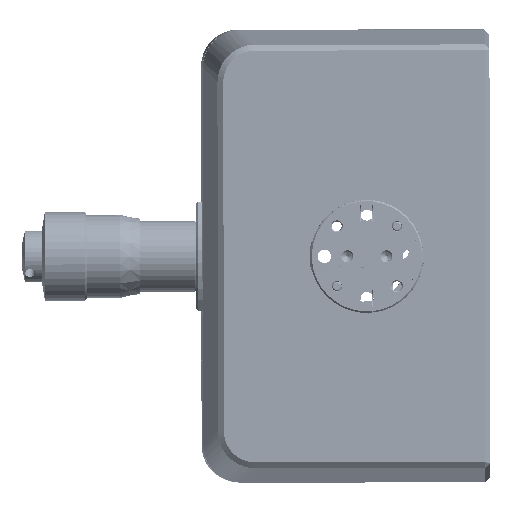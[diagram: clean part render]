
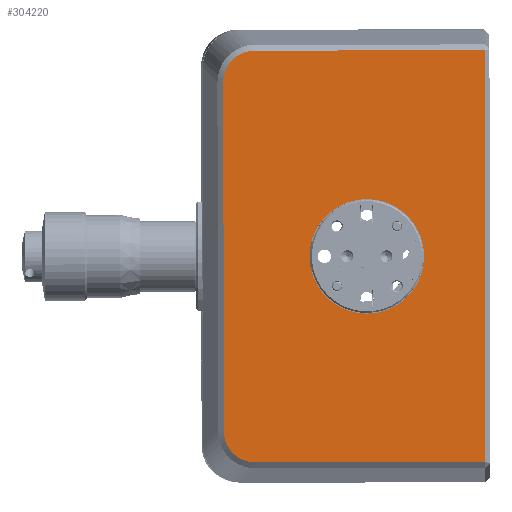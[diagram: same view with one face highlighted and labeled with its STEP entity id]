
A CAD part, left-side view. The second image highlights one B-rep face of the part: STEP entity #304220.
In plain terms, the highlighted planar face has unit normal (-1, -0.002, -0.001).
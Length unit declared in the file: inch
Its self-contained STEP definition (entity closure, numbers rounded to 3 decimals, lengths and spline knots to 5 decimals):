
#196 = AXIS2_PLACEMENT_3D ( 'NONE', #361641, #101273, #216506 ) ;
#1178 = FACE_OUTER_BOUND ( 'NONE', #351361, .T. ) ;
#12281 = DIRECTION ( 'NONE',  ( 0.001, -0.001, -1. ) ) ;
#13043 = CARTESIAN_POINT ( 'NONE',  ( -1.59451, -6.66416, -1.31852 ) ) ;
#20711 = VERTEX_POINT ( 'NONE', #228694 ) ;
#28390 = LINE ( 'NONE', #79516, #127469 ) ;
#29590 = ORIENTED_EDGE ( 'NONE', *, *, #371607, .T. ) ;
#34349 = VECTOR ( 'NONE', #198101, 39.37008 ) ;
#34577 = CARTESIAN_POINT ( 'NONE',  ( -1.59347, -6.87485, -2.68332 ) ) ;
#37794 = CARTESIAN_POINT ( 'NONE',  ( -1.59283, -7.61473, -1.69728 ) ) ;
#39235 = EDGE_LOOP ( 'NONE', ( #302916, #242194 ) ) ;
#39695 = CARTESIAN_POINT ( 'NONE',  ( -1.59505, -6.76588, 0.02046 ) ) ;
#40668 = CARTESIAN_POINT ( 'NONE',  ( -1.59324, -7.47924, -1.31746 ) ) ;
#43243 = VERTEX_POINT ( 'NONE', #259196 ) ;
#43453 = CARTESIAN_POINT ( 'NONE',  ( -1.59507, -6.74267, 0.00494 ) ) ;
#50219 = AXIS2_PLACEMENT_3D ( 'NONE', #40668, #125787, #12281 ) ;
#55036 = CARTESIAN_POINT ( 'NONE',  ( -1.59381, -6.69203, -2.5801 ) ) ;
#57969 = EDGE_CURVE ( 'NONE', #219331, #276257, #256444, .T. ) ;
#61591 = PLANE ( 'NONE',  #50219 ) ;
#71788 = CARTESIAN_POINT ( 'NONE',  ( -1.59489, -6.87131, 0.04683 ) ) ;
#79516 = CARTESIAN_POINT ( 'NONE',  ( -1.59395, -7.47747, 0.04762 ) ) ;
#83459 = CARTESIAN_POINT ( 'NONE',  ( -1.59387, -6.67116, -2.52965 ) ) ;
#89127 = CARTESIAN_POINT ( 'NONE',  ( -1.59303, -7.61424, -1.31728 ) ) ;
#94991 = VECTOR ( 'NONE', #139588, 39.37008 ) ;
#101273 = DIRECTION ( 'NONE',  ( -1., -0.002, -0.001 ) ) ;
#103583 = EDGE_CURVE ( 'NONE', #43243, #281500, #289509, .T. ) ;
#113737 = B_SPLINE_CURVE_WITH_KNOTS ( 'NONE', 3,
 ( #71788, #298441, #302170, #39695, #43453, #158847, #360554, #160477, #173776, #166317 ),
 .UNSPECIFIED., .F., .F.,
 ( 4, 2, 2, 2, 4 ),
 ( 0., 0.25, 0.5, 0.75, 1. ),
 .UNSPECIFIED. ) ;
#114770 = CARTESIAN_POINT ( 'NONE',  ( -1.5918, -8.39923, -1.31627 ) ) ;
#119852 = VERTEX_POINT ( 'NONE', #281038 ) ;
#125787 = DIRECTION ( 'NONE',  ( 1., 0.002, 0.001 ) ) ;
#127469 = VECTOR ( 'NONE', #370212, 39.37008 ) ;
#130485 = B_SPLINE_CURVE_WITH_KNOTS ( 'NONE', 3,
 ( #166792, #200688, #83459, #55036, #170514, #315628, #285448, #279932, #338215, #281787 ),
 .UNSPECIFIED., .F., .F.,
 ( 4, 2, 2, 2, 4 ),
 ( 0., 0.25, 0.5, 0.75, 1. ),
 .UNSPECIFIED. ) ;
#136081 = VERTEX_POINT ( 'NONE', #161140 ) ;
#139588 = DIRECTION ( 'NONE',  ( 0.001, -0.001, -1. ) ) ;
#156854 = LINE ( 'NONE', #13043, #94991 ) ;
#158847 = CARTESIAN_POINT ( 'NONE',  ( -1.59511, -6.70421, -0.03361 ) ) ;
#160477 = CARTESIAN_POINT ( 'NONE',  ( -1.59513, -6.66802, -0.10736 ) ) ;
#161140 = CARTESIAN_POINT ( 'NONE',  ( -1.59251, -8.39746, 0.04881 ) ) ;
#166317 = CARTESIAN_POINT ( 'NONE',  ( -1.59511, -6.66266, -0.16236 ) ) ;
#166792 = CARTESIAN_POINT ( 'NONE',  ( -1.59391, -6.66566, -2.47467 ) ) ;
#170514 = CARTESIAN_POINT ( 'NONE',  ( -1.59378, -6.70755, -2.60331 ) ) ;
#172443 = DIRECTION ( 'NONE',  ( -1., -0.002, -0.001 ) ) ;
#173776 = CARTESIAN_POINT ( 'NONE',  ( -1.59513, -6.66262, -0.13482 ) ) ;
#175253 = ORIENTED_EDGE ( 'NONE', *, *, #321494, .T. ) ;
#198101 = DIRECTION ( 'NONE',  ( 0.002, -1., 0.001 ) ) ;
#199968 = LINE ( 'NONE', #114770, #311124 ) ;
#200688 = CARTESIAN_POINT ( 'NONE',  ( -1.59389, -6.66569, -2.50216 ) ) ;
#203269 = EDGE_CURVE ( 'NONE', #353408, #219331, #130485, .T. ) ;
#216506 = DIRECTION ( 'NONE',  ( -0.001, 0.001, 1. ) ) ;
#219331 = VERTEX_POINT ( 'NONE', #34577 ) ;
#228694 = CARTESIAN_POINT ( 'NONE',  ( -1.59489, -6.87131, 0.04683 ) ) ;
#230056 = DIRECTION ( 'NONE',  ( -0.001, 0.001, 1. ) ) ;
#235424 = CIRCLE ( 'NONE', #196, 0.38 ) ;
#242194 = ORIENTED_EDGE ( 'NONE', *, *, #317072, .F. ) ;
#256444 = LINE ( 'NONE', #334275, #34349 ) ;
#259196 = CARTESIAN_POINT ( 'NONE',  ( -1.59322, -7.61374, -0.93729 ) ) ;
#275949 = ORIENTED_EDGE ( 'NONE', *, *, #365474, .T. ) ;
#276257 = VERTEX_POINT ( 'NONE', #311683 ) ;
#279932 = CARTESIAN_POINT ( 'NONE',  ( -1.59356, -6.81985, -2.67797 ) ) ;
#281038 = CARTESIAN_POINT ( 'NONE',  ( -1.59511, -6.66266, -0.16236 ) ) ;
#281500 = VERTEX_POINT ( 'NONE', #37794 ) ;
#281787 = CARTESIAN_POINT ( 'NONE',  ( -1.59347, -6.87485, -2.68332 ) ) ;
#285448 = CARTESIAN_POINT ( 'NONE',  ( -1.59365, -6.76936, -2.65723 ) ) ;
#287431 = DIRECTION ( 'NONE',  ( -0.001, 0.001, 1. ) ) ;
#289509 = CIRCLE ( 'NONE', #367869, 0.38 ) ;
#293878 = CARTESIAN_POINT ( 'NONE',  ( -1.59391, -6.66566, -2.47467 ) ) ;
#298441 = CARTESIAN_POINT ( 'NONE',  ( -1.59494, -6.84382, 0.0468 ) ) ;
#301233 = ORIENTED_EDGE ( 'NONE', *, *, #355666, .T. ) ;
#302170 = CARTESIAN_POINT ( 'NONE',  ( -1.59498, -6.81633, 0.04132 ) ) ;
#302916 = ORIENTED_EDGE ( 'NONE', *, *, #103583, .F. ) ;
#304220 = ADVANCED_FACE ( 'NONE', ( #371307, #1178 ), #61591, .F. ) ;
#311124 = VECTOR ( 'NONE', #230056, 39.37008 ) ;
#311683 = CARTESIAN_POINT ( 'NONE',  ( -1.59109, -8.401, -2.68134 ) ) ;
#315628 = CARTESIAN_POINT ( 'NONE',  ( -1.5937, -6.7461, -2.64177 ) ) ;
#317072 = EDGE_CURVE ( 'NONE', #281500, #43243, #235424, .T. ) ;
#321494 = EDGE_CURVE ( 'NONE', #20711, #119852, #113737, .T. ) ;
#328686 = ORIENTED_EDGE ( 'NONE', *, *, #57969, .T. ) ;
#334275 = CARTESIAN_POINT ( 'NONE',  ( -1.59253, -7.48101, -2.68254 ) ) ;
#337030 = ORIENTED_EDGE ( 'NONE', *, *, #203269, .T. ) ;
#338215 = CARTESIAN_POINT ( 'NONE',  ( -1.59352, -6.84731, -2.68336 ) ) ;
#351361 = EDGE_LOOP ( 'NONE', ( #337030, #328686, #29590, #275949, #175253, #301233 ) ) ;
#353408 = VERTEX_POINT ( 'NONE', #293878 ) ;
#355666 = EDGE_CURVE ( 'NONE', #119852, #353408, #156854, .T. ) ;
#360554 = CARTESIAN_POINT ( 'NONE',  ( -1.59513, -6.68876, -0.05687 ) ) ;
#361641 = CARTESIAN_POINT ( 'NONE',  ( -1.59303, -7.61424, -1.31728 ) ) ;
#365474 = EDGE_CURVE ( 'NONE', #136081, #20711, #28390, .T. ) ;
#367869 = AXIS2_PLACEMENT_3D ( 'NONE', #89127, #172443, #287431 ) ;
#370212 = DIRECTION ( 'NONE',  ( -0.002, 1., -0.001 ) ) ;
#371307 = FACE_BOUND ( 'NONE', #39235, .T. ) ;
#371607 = EDGE_CURVE ( 'NONE', #276257, #136081, #199968, .T. ) ;
